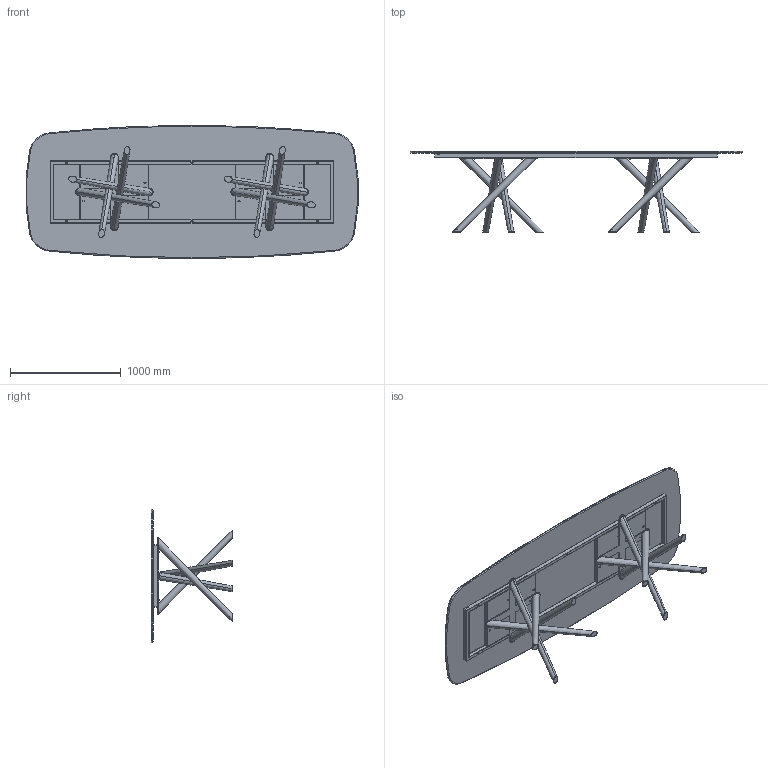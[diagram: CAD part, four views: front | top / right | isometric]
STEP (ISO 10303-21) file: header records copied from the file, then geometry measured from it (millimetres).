
FILE_DESCRIPTION (( 'STEP AP203' ), '1' );
FILE_NAME ('BA44C.STEP', '2024-08-08T06:24:17', ( '' ), ( '' ), 'SwSTEP 2.0', 'SolidWorks 2022', '' );
FILE_SCHEMA (( 'CONFIG_CONTROL_DESIGN' ));
Length unit declared in the file: millimetre
Products named in the file (12): K4XCMXX-00-Piani Sagomati in ceramica_3000 x 1200; BAB000000_02-00-basamento pali conificati; M8xXXmm_M8x20mm; TTAV03_01-06-RING TUBO TELAIO UNIVERSALE X TAVOLI 300-340cm; 434070-00-PIEDINO TPV GOMMA NERO D. 30x8max18; rondella M8_8X16; TTAV03-06-TELAIO UNIVERSALE X TAVOLI 300-340cm; Parte5^BAB000000-00-BALY BASE GREZZA; BAB000000_01-00-Croce Superiore baly; TTAV03_02-06-VASSOIO IRRIGIDIMENTO TELAIO UNIVERSALE RETTANGOLARE; BA44C; BAB000000-00-BALY BASE GREZZA
Assembly tree (34 placements, depth 3):
  BA44C
    K4XCMXX-00-Piani Sagomati in ceramica_3000 x 1200
    TTAV03-06-TELAIO UNIVERSALE X TAVOLI 300-340cm
      TTAV03_01-06-RING TUBO TELAIO UNIVERSALE X TAVOLI 300-340cm
      TTAV03_02-06-VASSOIO IRRIGIDIMENTO TELAIO UNIVERSALE RETTANGOLARE  x2
    BAB000000-00-BALY BASE GREZZA  x2
      BAB000000_01-00-Croce Superiore baly
      BAB000000_02-00-basamento pali conificati
      Parte5^BAB000000-00-BALY BASE GREZZA
    434070-00-PIEDINO TPV GOMMA NERO D. 30x8max18  x8
    M8xXXmm_M8x20mm  x8
    rondella M8_8X16  x8
Bounding box: 2991.72 x 731 x 1200 mm (x, y, z)
Volume: 62892714.1 mm3; surface area: 19936708.4 mm2
Topology: 55 solids, 55 shells, 1053 faces, 2383 edges, 1426 vertices
Faces by surface type: plane 432, cylinder 308, cone 161, torus 128, bspline 16, sphere 8
Entity records: 15815 total; most frequent: CARTESIAN_POINT 3879, DIRECTION 2175, ORIENTED_EDGE 2016, EDGE_CURVE 1008, AXIS2_PLACEMENT_3D 806, VERTEX_POINT 624, LINE 563, VECTOR 563
